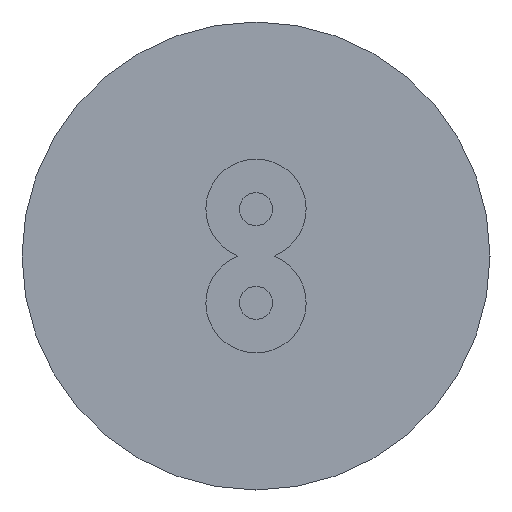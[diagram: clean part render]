
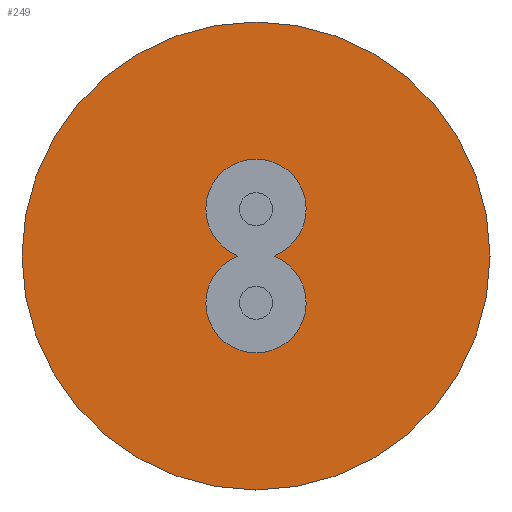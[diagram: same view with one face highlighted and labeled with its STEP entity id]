
A CAD part, left-side view. The second image highlights one B-rep face of the part: STEP entity #249.
In plain terms, the highlighted planar face has unit normal (-1, 0, 0).
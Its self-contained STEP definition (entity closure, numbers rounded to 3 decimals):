
#24 = DIRECTION ( 'NONE',  ( 1., 0., 0. ) ) ;
#46 = CARTESIAN_POINT ( 'NONE',  ( 0., 3.5, 0. ) ) ;
#125 = CARTESIAN_POINT ( 'NONE',  ( 0., 0., 3.5 ) ) ;
#186 = FACE_OUTER_BOUND ( 'NONE', #878, .T. ) ;
#224 = AXIS2_PLACEMENT_3D ( 'NONE', #456, #860, #776 ) ;
#239 = ORIENTED_EDGE ( 'NONE', *, *, #891, .T. ) ;
#241 = PLANE ( 'NONE',  #853 ) ;
#249 = ADVANCED_FACE ( 'NONE', ( #186 ), #241, .F. ) ;
#340 = CIRCLE ( 'NONE', #547, 3.5 ) ;
#407 = DIRECTION ( 'NONE',  ( 0., 0., -1. ) ) ;
#412 = VERTEX_POINT ( 'NONE', #125 ) ;
#456 = CARTESIAN_POINT ( 'NONE',  ( 0., 0., 0. ) ) ;
#467 = CARTESIAN_POINT ( 'NONE',  ( 0., 0., 0. ) ) ;
#531 = EDGE_CURVE ( 'NONE', #412, #792, #340, .T. ) ;
#547 = AXIS2_PLACEMENT_3D ( 'NONE', #467, #550, #714 ) ;
#550 = DIRECTION ( 'NONE',  ( -1., 0., 0. ) ) ;
#572 = ORIENTED_EDGE ( 'NONE', *, *, #531, .T. ) ;
#613 = CARTESIAN_POINT ( 'NONE',  ( 0., 0., -3.5 ) ) ;
#714 = DIRECTION ( 'NONE',  ( 0., 0., 1. ) ) ;
#776 = DIRECTION ( 'NONE',  ( 0., 0., 1. ) ) ;
#792 = VERTEX_POINT ( 'NONE', #613 ) ;
#853 = AXIS2_PLACEMENT_3D ( 'NONE', #46, #24, #407 ) ;
#860 = DIRECTION ( 'NONE',  ( -1., 0., 0. ) ) ;
#878 = EDGE_LOOP ( 'NONE', ( #572, #239 ) ) ;
#891 = EDGE_CURVE ( 'NONE', #792, #412, #997, .T. ) ;
#997 = CIRCLE ( 'NONE', #224, 3.5 ) ;
